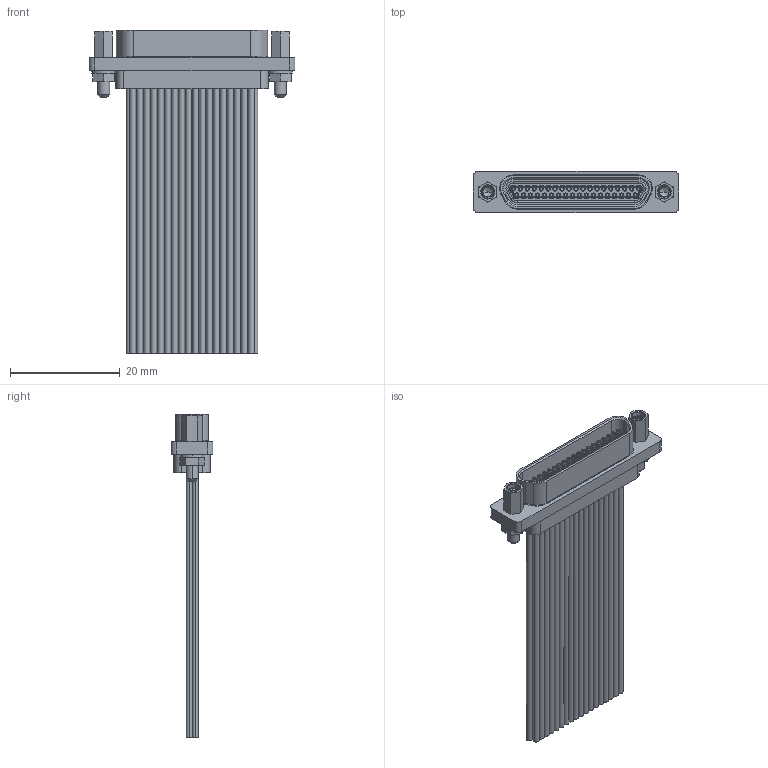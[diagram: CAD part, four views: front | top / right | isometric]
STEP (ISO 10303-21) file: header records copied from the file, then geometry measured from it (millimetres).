
FILE_DESCRIPTION (( 'STEP AP214' ), '1' );
FILE_NAME ('A99101-037 REV B.STEP', '2020-10-28T15:00:00', ( '' ), ( '' ), 'SwSTEP 2.0', 'SolidWorks 2019', '' );
FILE_SCHEMA (( 'AUTOMOTIVE_DESIGN' ));
Length unit declared in the file: inch
Products named in the file (1): A99101-037 REV B
Bounding box: 37.47 x 7.63 x 58.88 mm (x, y, z)
Volume: 3346.6 mm3; surface area: 8446.6 mm2
Topology: 1 solids, 1 shells, 866 faces, 2026 edges, 1303 vertices
Faces by surface type: cylinder 376, plane 292, torus 87, cone 57, bspline 54
Entity records: 42615 total; most frequent: CARTESIAN_POINT 11768, DIRECTION 4340, ORIENTED_EDGE 4052, EDGE_CURVE 2026, AXIS2_PLACEMENT_3D 1743, VERTEX_POINT 1303, EDGE_LOOP 1007, CIRCLE 930
